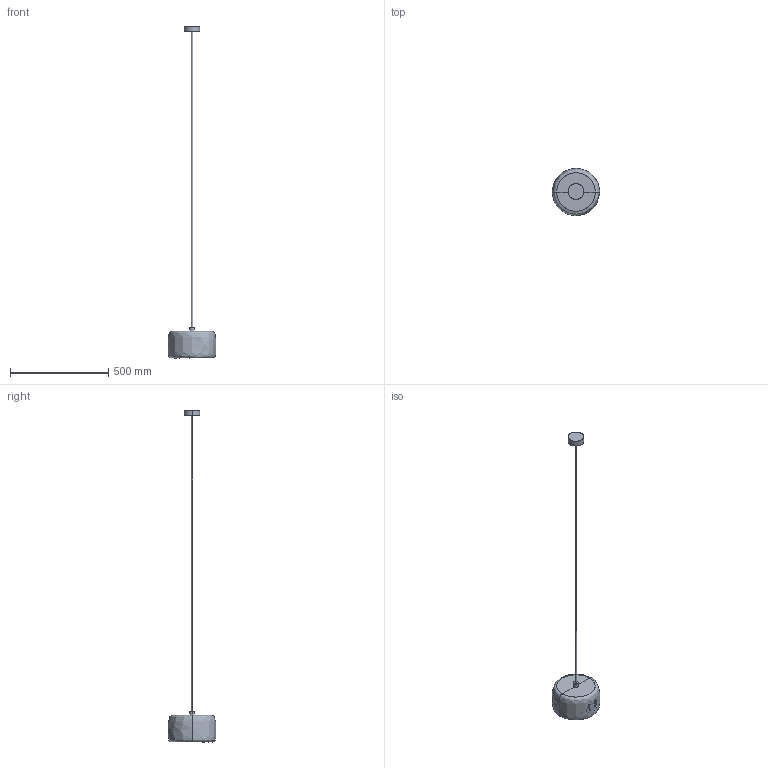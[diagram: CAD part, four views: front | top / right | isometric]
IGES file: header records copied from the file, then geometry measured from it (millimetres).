
Start section: SolidWorks IGES file using analytic representation for surfaces
Global section: file name: \\ARNOLD\compartida\Nueva Coleccion Septiembre 2026\ISES_1364\ISES_C1364_1\3D\ISES_C1364_1.IGS; native system: SolidWorks 2023; preprocessor: SolidWorks 2023; author: adrian; date: 260911.163120; units: millimetre
Bounding box: 243.32 x 242.65 x 1685.7 mm (x, y, z)
Surface area: 334543.4 mm2 (no closed solid volume)
Topology: 0 solids, 0 shells, 18 faces, 312 edges, 312 vertices
Faces by surface type: bspline 12, revolution 6
